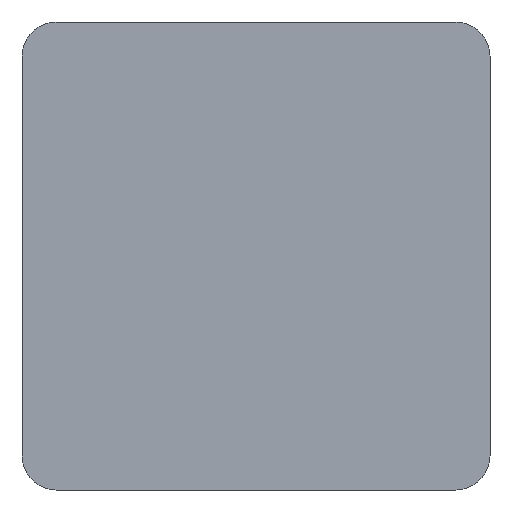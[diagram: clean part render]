
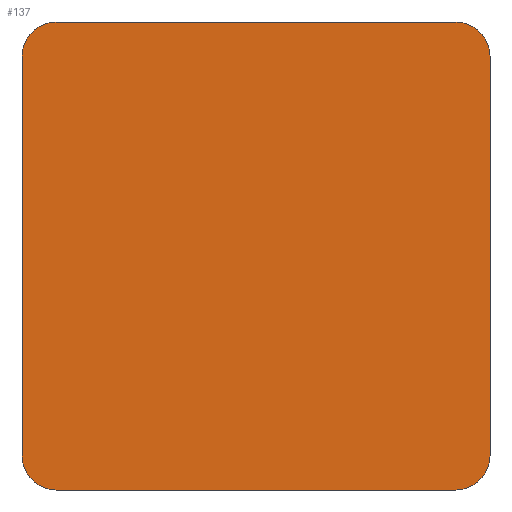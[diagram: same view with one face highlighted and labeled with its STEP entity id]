
A CAD part, left-side view. The second image highlights one B-rep face of the part: STEP entity #137.
In plain terms, the highlighted planar face has unit normal (-1, 0, 0).
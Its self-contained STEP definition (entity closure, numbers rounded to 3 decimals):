
#21 = EDGE_CURVE('',#22,#24,#26,.T.);
#22 = VERTEX_POINT('',#23);
#23 = CARTESIAN_POINT('',(117.2,16.,10.2));
#24 = VERTEX_POINT('',#25);
#25 = CARTESIAN_POINT('',(117.2,84.,10.2));
#26 = SURFACE_CURVE('',#27,(#31,#43),.PCURVE_S1.);
#27 = LINE('',#28,#29);
#28 = CARTESIAN_POINT('',(117.2,10.2,10.2));
#29 = VECTOR('',#30,1.);
#30 = DIRECTION('',(0.,1.,0.));
#31 = PCURVE('',#32,#37);
#32 = PLANE('',#33);
#33 = AXIS2_PLACEMENT_3D('',#34,#35,#36);
#34 = CARTESIAN_POINT('',(117.2,10.2,10.2));
#35 = DIRECTION('',(0.,0.,1.));
#36 = DIRECTION('',(0.,1.,0.));
#37 = DEFINITIONAL_REPRESENTATION('',(#38),#42);
#38 = LINE('',#39,#40);
#39 = CARTESIAN_POINT('',(0.,0.));
#40 = VECTOR('',#41,1.);
#41 = DIRECTION('',(1.,0.));
#42 = ( GEOMETRIC_REPRESENTATION_CONTEXT(2) 
PARAMETRIC_REPRESENTATION_CONTEXT() REPRESENTATION_CONTEXT('2D SPACE',''
  ) );
#43 = PCURVE('',#44,#49);
#44 = PLANE('',#45);
#45 = AXIS2_PLACEMENT_3D('',#46,#47,#48);
#46 = CARTESIAN_POINT('',(117.2,50.,50.));
#47 = DIRECTION('',(1.,0.,0.));
#48 = DIRECTION('',(-0.,0.,1.));
#49 = DEFINITIONAL_REPRESENTATION('',(#50),#54);
#50 = LINE('',#51,#52);
#51 = CARTESIAN_POINT('',(-39.8,39.8));
#52 = VECTOR('',#53,1.);
#53 = DIRECTION('',(0.,-1.));
#54 = ( GEOMETRIC_REPRESENTATION_CONTEXT(2) 
PARAMETRIC_REPRESENTATION_CONTEXT() REPRESENTATION_CONTEXT('2D SPACE',''
  ) );
#72 = CYLINDRICAL_SURFACE('',#73,5.8);
#73 = AXIS2_PLACEMENT_3D('',#74,#75,#76);
#74 = CARTESIAN_POINT('',(117.2,16.,16.));
#75 = DIRECTION('',(1.,0.,0.));
#76 = DIRECTION('',(0.,0.,-1.));
#126 = CYLINDRICAL_SURFACE('',#127,5.8);
#127 = AXIS2_PLACEMENT_3D('',#128,#129,#130);
#128 = CARTESIAN_POINT('',(117.2,84.,16.));
#129 = DIRECTION('',(1.,0.,0.));
#130 = DIRECTION('',(0.,0.,-1.));
#137 = ADVANCED_FACE('',(#138),#44,.F.);
#138 = FACE_BOUND('',#139,.F.);
#139 = EDGE_LOOP('',(#140,#141,#165,#193,#222,#250,#279,#307));
#140 = ORIENTED_EDGE('',*,*,#21,.T.);
#141 = ORIENTED_EDGE('',*,*,#142,.T.);
#142 = EDGE_CURVE('',#24,#143,#145,.T.);
#143 = VERTEX_POINT('',#144);
#144 = CARTESIAN_POINT('',(117.2,89.8,16.));
#145 = SURFACE_CURVE('',#146,(#151,#158),.PCURVE_S1.);
#146 = CIRCLE('',#147,5.8);
#147 = AXIS2_PLACEMENT_3D('',#148,#149,#150);
#148 = CARTESIAN_POINT('',(117.2,84.,16.));
#149 = DIRECTION('',(1.,0.,0.));
#150 = DIRECTION('',(-0.,0.,1.));
#151 = PCURVE('',#44,#152);
#152 = DEFINITIONAL_REPRESENTATION('',(#153),#157);
#153 = CIRCLE('',#154,5.8);
#154 = AXIS2_PLACEMENT_2D('',#155,#156);
#155 = CARTESIAN_POINT('',(-34.,-34.));
#156 = DIRECTION('',(1.,0.));
#157 = ( GEOMETRIC_REPRESENTATION_CONTEXT(2) 
PARAMETRIC_REPRESENTATION_CONTEXT() REPRESENTATION_CONTEXT('2D SPACE',''
  ) );
#158 = PCURVE('',#126,#159);
#159 = DEFINITIONAL_REPRESENTATION('',(#160),#164);
#160 = LINE('',#161,#162);
#161 = CARTESIAN_POINT('',(-3.142,0.));
#162 = VECTOR('',#163,1.);
#163 = DIRECTION('',(1.,0.));
#164 = ( GEOMETRIC_REPRESENTATION_CONTEXT(2) 
PARAMETRIC_REPRESENTATION_CONTEXT() REPRESENTATION_CONTEXT('2D SPACE',''
  ) );
#165 = ORIENTED_EDGE('',*,*,#166,.T.);
#166 = EDGE_CURVE('',#143,#167,#169,.T.);
#167 = VERTEX_POINT('',#168);
#168 = CARTESIAN_POINT('',(117.2,89.8,84.));
#169 = SURFACE_CURVE('',#170,(#174,#181),.PCURVE_S1.);
#170 = LINE('',#171,#172);
#171 = CARTESIAN_POINT('',(117.2,89.8,10.2));
#172 = VECTOR('',#173,1.);
#173 = DIRECTION('',(0.,0.,1.));
#174 = PCURVE('',#44,#175);
#175 = DEFINITIONAL_REPRESENTATION('',(#176),#180);
#176 = LINE('',#177,#178);
#177 = CARTESIAN_POINT('',(-39.8,-39.8));
#178 = VECTOR('',#179,1.);
#179 = DIRECTION('',(1.,0.));
#180 = ( GEOMETRIC_REPRESENTATION_CONTEXT(2) 
PARAMETRIC_REPRESENTATION_CONTEXT() REPRESENTATION_CONTEXT('2D SPACE',''
  ) );
#181 = PCURVE('',#182,#187);
#182 = PLANE('',#183);
#183 = AXIS2_PLACEMENT_3D('',#184,#185,#186);
#184 = CARTESIAN_POINT('',(117.2,89.8,10.2));
#185 = DIRECTION('',(0.,-1.,0.));
#186 = DIRECTION('',(0.,0.,1.));
#187 = DEFINITIONAL_REPRESENTATION('',(#188),#192);
#188 = LINE('',#189,#190);
#189 = CARTESIAN_POINT('',(0.,0.));
#190 = VECTOR('',#191,1.);
#191 = DIRECTION('',(1.,0.));
#192 = ( GEOMETRIC_REPRESENTATION_CONTEXT(2) 
PARAMETRIC_REPRESENTATION_CONTEXT() REPRESENTATION_CONTEXT('2D SPACE',''
  ) );
#193 = ORIENTED_EDGE('',*,*,#194,.T.);
#194 = EDGE_CURVE('',#167,#195,#197,.T.);
#195 = VERTEX_POINT('',#196);
#196 = CARTESIAN_POINT('',(117.2,84.,89.8));
#197 = SURFACE_CURVE('',#198,(#203,#210),.PCURVE_S1.);
#198 = CIRCLE('',#199,5.8);
#199 = AXIS2_PLACEMENT_3D('',#200,#201,#202);
#200 = CARTESIAN_POINT('',(117.2,84.,84.));
#201 = DIRECTION('',(1.,0.,0.));
#202 = DIRECTION('',(-0.,0.,1.));
#203 = PCURVE('',#44,#204);
#204 = DEFINITIONAL_REPRESENTATION('',(#205),#209);
#205 = CIRCLE('',#206,5.8);
#206 = AXIS2_PLACEMENT_2D('',#207,#208);
#207 = CARTESIAN_POINT('',(34.,-34.));
#208 = DIRECTION('',(1.,0.));
#209 = ( GEOMETRIC_REPRESENTATION_CONTEXT(2) 
PARAMETRIC_REPRESENTATION_CONTEXT() REPRESENTATION_CONTEXT('2D SPACE',''
  ) );
#210 = PCURVE('',#211,#216);
#211 = CYLINDRICAL_SURFACE('',#212,5.8);
#212 = AXIS2_PLACEMENT_3D('',#213,#214,#215);
#213 = CARTESIAN_POINT('',(117.2,84.,84.));
#214 = DIRECTION('',(1.,0.,0.));
#215 = DIRECTION('',(-0.,1.,0.));
#216 = DEFINITIONAL_REPRESENTATION('',(#217),#221);
#217 = LINE('',#218,#219);
#218 = CARTESIAN_POINT('',(-4.712,0.));
#219 = VECTOR('',#220,1.);
#220 = DIRECTION('',(1.,0.));
#221 = ( GEOMETRIC_REPRESENTATION_CONTEXT(2) 
PARAMETRIC_REPRESENTATION_CONTEXT() REPRESENTATION_CONTEXT('2D SPACE',''
  ) );
#222 = ORIENTED_EDGE('',*,*,#223,.T.);
#223 = EDGE_CURVE('',#195,#224,#226,.T.);
#224 = VERTEX_POINT('',#225);
#225 = CARTESIAN_POINT('',(117.2,16.,89.8));
#226 = SURFACE_CURVE('',#227,(#231,#238),.PCURVE_S1.);
#227 = LINE('',#228,#229);
#228 = CARTESIAN_POINT('',(117.2,89.8,89.8));
#229 = VECTOR('',#230,1.);
#230 = DIRECTION('',(0.,-1.,0.));
#231 = PCURVE('',#44,#232);
#232 = DEFINITIONAL_REPRESENTATION('',(#233),#237);
#233 = LINE('',#234,#235);
#234 = CARTESIAN_POINT('',(39.8,-39.8));
#235 = VECTOR('',#236,1.);
#236 = DIRECTION('',(0.,1.));
#237 = ( GEOMETRIC_REPRESENTATION_CONTEXT(2) 
PARAMETRIC_REPRESENTATION_CONTEXT() REPRESENTATION_CONTEXT('2D SPACE',''
  ) );
#238 = PCURVE('',#239,#244);
#239 = PLANE('',#240);
#240 = AXIS2_PLACEMENT_3D('',#241,#242,#243);
#241 = CARTESIAN_POINT('',(117.2,89.8,89.8));
#242 = DIRECTION('',(0.,0.,-1.));
#243 = DIRECTION('',(0.,-1.,0.));
#244 = DEFINITIONAL_REPRESENTATION('',(#245),#249);
#245 = LINE('',#246,#247);
#246 = CARTESIAN_POINT('',(0.,-0.));
#247 = VECTOR('',#248,1.);
#248 = DIRECTION('',(1.,0.));
#249 = ( GEOMETRIC_REPRESENTATION_CONTEXT(2) 
PARAMETRIC_REPRESENTATION_CONTEXT() REPRESENTATION_CONTEXT('2D SPACE',''
  ) );
#250 = ORIENTED_EDGE('',*,*,#251,.T.);
#251 = EDGE_CURVE('',#224,#252,#254,.T.);
#252 = VERTEX_POINT('',#253);
#253 = CARTESIAN_POINT('',(117.2,10.2,84.));
#254 = SURFACE_CURVE('',#255,(#260,#267),.PCURVE_S1.);
#255 = CIRCLE('',#256,5.8);
#256 = AXIS2_PLACEMENT_3D('',#257,#258,#259);
#257 = CARTESIAN_POINT('',(117.2,16.,84.));
#258 = DIRECTION('',(1.,0.,0.));
#259 = DIRECTION('',(-0.,0.,1.));
#260 = PCURVE('',#44,#261);
#261 = DEFINITIONAL_REPRESENTATION('',(#262),#266);
#262 = CIRCLE('',#263,5.8);
#263 = AXIS2_PLACEMENT_2D('',#264,#265);
#264 = CARTESIAN_POINT('',(34.,34.));
#265 = DIRECTION('',(1.,0.));
#266 = ( GEOMETRIC_REPRESENTATION_CONTEXT(2) 
PARAMETRIC_REPRESENTATION_CONTEXT() REPRESENTATION_CONTEXT('2D SPACE',''
  ) );
#267 = PCURVE('',#268,#273);
#268 = CYLINDRICAL_SURFACE('',#269,5.8);
#269 = AXIS2_PLACEMENT_3D('',#270,#271,#272);
#270 = CARTESIAN_POINT('',(117.2,16.,84.));
#271 = DIRECTION('',(1.,0.,0.));
#272 = DIRECTION('',(0.,-0.,1.));
#273 = DEFINITIONAL_REPRESENTATION('',(#274),#278);
#274 = LINE('',#275,#276);
#275 = CARTESIAN_POINT('',(0.,0.));
#276 = VECTOR('',#277,1.);
#277 = DIRECTION('',(1.,0.));
#278 = ( GEOMETRIC_REPRESENTATION_CONTEXT(2) 
PARAMETRIC_REPRESENTATION_CONTEXT() REPRESENTATION_CONTEXT('2D SPACE',''
  ) );
#279 = ORIENTED_EDGE('',*,*,#280,.T.);
#280 = EDGE_CURVE('',#252,#281,#283,.T.);
#281 = VERTEX_POINT('',#282);
#282 = CARTESIAN_POINT('',(117.2,10.2,16.));
#283 = SURFACE_CURVE('',#284,(#288,#295),.PCURVE_S1.);
#284 = LINE('',#285,#286);
#285 = CARTESIAN_POINT('',(117.2,10.2,89.8));
#286 = VECTOR('',#287,1.);
#287 = DIRECTION('',(0.,0.,-1.));
#288 = PCURVE('',#44,#289);
#289 = DEFINITIONAL_REPRESENTATION('',(#290),#294);
#290 = LINE('',#291,#292);
#291 = CARTESIAN_POINT('',(39.8,39.8));
#292 = VECTOR('',#293,1.);
#293 = DIRECTION('',(-1.,0.));
#294 = ( GEOMETRIC_REPRESENTATION_CONTEXT(2) 
PARAMETRIC_REPRESENTATION_CONTEXT() REPRESENTATION_CONTEXT('2D SPACE',''
  ) );
#295 = PCURVE('',#296,#301);
#296 = PLANE('',#297);
#297 = AXIS2_PLACEMENT_3D('',#298,#299,#300);
#298 = CARTESIAN_POINT('',(117.2,10.2,89.8));
#299 = DIRECTION('',(-0.,1.,0.));
#300 = DIRECTION('',(0.,0.,-1.));
#301 = DEFINITIONAL_REPRESENTATION('',(#302),#306);
#302 = LINE('',#303,#304);
#303 = CARTESIAN_POINT('',(0.,0.));
#304 = VECTOR('',#305,1.);
#305 = DIRECTION('',(1.,0.));
#306 = ( GEOMETRIC_REPRESENTATION_CONTEXT(2) 
PARAMETRIC_REPRESENTATION_CONTEXT() REPRESENTATION_CONTEXT('2D SPACE',''
  ) );
#307 = ORIENTED_EDGE('',*,*,#308,.F.);
#308 = EDGE_CURVE('',#22,#281,#309,.T.);
#309 = SURFACE_CURVE('',#310,(#315,#326),.PCURVE_S1.);
#310 = CIRCLE('',#311,5.8);
#311 = AXIS2_PLACEMENT_3D('',#312,#313,#314);
#312 = CARTESIAN_POINT('',(117.2,16.,16.));
#313 = DIRECTION('',(-1.,0.,-0.));
#314 = DIRECTION('',(-0.,0.,1.));
#315 = PCURVE('',#44,#316);
#316 = DEFINITIONAL_REPRESENTATION('',(#317),#325);
#317 = ( BOUNDED_CURVE() B_SPLINE_CURVE(2,(#318,#319,#320,#321,#322,#323
,#324),.UNSPECIFIED.,.T.,.F.) B_SPLINE_CURVE_WITH_KNOTS((1,2,2,2,2,1),(
    -2.094,0.,2.094,4.189,6.283,
8.378),.UNSPECIFIED.) CURVE() GEOMETRIC_REPRESENTATION_ITEM() 
RATIONAL_B_SPLINE_CURVE((1.,0.5,1.,0.5,1.,0.5,1.)) REPRESENTATION_ITEM(
  '') );
#318 = CARTESIAN_POINT('',(-28.2,34.));
#319 = CARTESIAN_POINT('',(-28.2,23.954));
#320 = CARTESIAN_POINT('',(-36.9,28.977));
#321 = CARTESIAN_POINT('',(-45.6,34.));
#322 = CARTESIAN_POINT('',(-36.9,39.023));
#323 = CARTESIAN_POINT('',(-28.2,44.046));
#324 = CARTESIAN_POINT('',(-28.2,34.));
#325 = ( GEOMETRIC_REPRESENTATION_CONTEXT(2) 
PARAMETRIC_REPRESENTATION_CONTEXT() REPRESENTATION_CONTEXT('2D SPACE',''
  ) );
#326 = PCURVE('',#72,#327);
#327 = DEFINITIONAL_REPRESENTATION('',(#328),#332);
#328 = LINE('',#329,#330);
#329 = CARTESIAN_POINT('',(3.142,0.));
#330 = VECTOR('',#331,1.);
#331 = DIRECTION('',(-1.,0.));
#332 = ( GEOMETRIC_REPRESENTATION_CONTEXT(2) 
PARAMETRIC_REPRESENTATION_CONTEXT() REPRESENTATION_CONTEXT('2D SPACE',''
  ) );
